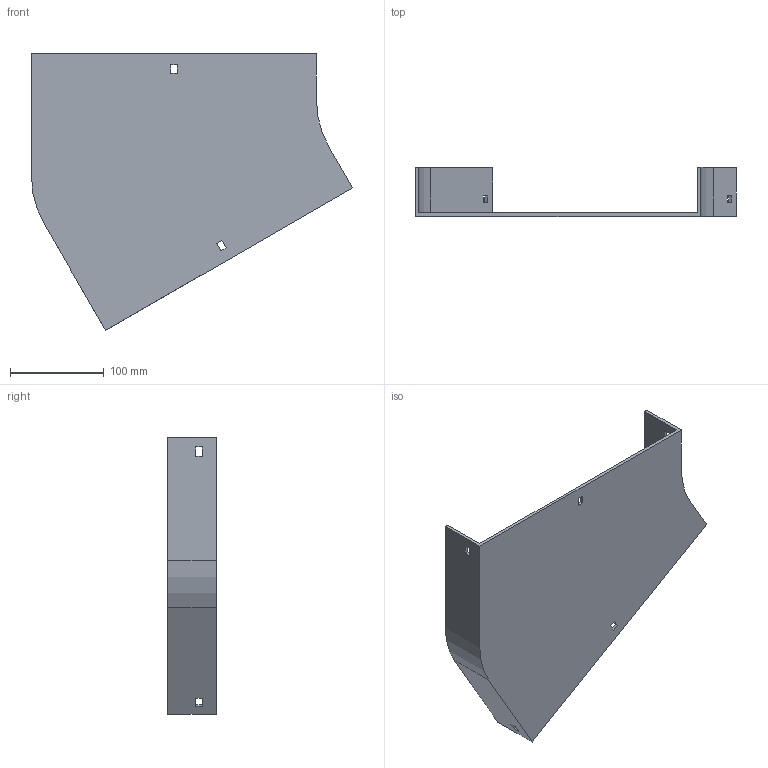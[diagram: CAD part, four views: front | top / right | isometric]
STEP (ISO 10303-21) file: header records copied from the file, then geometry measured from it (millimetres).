
FILE_DESCRIPTION (( 'STEP AP214' ), '1' );
FILE_NAME ('12B1B300.step', '2025-02-21T09:34:33', ( '' ), ( '' ), 'SwSTEP 2.0', 'SolidWorks 2023', '' );
FILE_SCHEMA (( 'AUTOMOTIVE_DESIGN' ));
Length unit declared in the file: millimetre
Products named in the file (1): 12B1B300
Bounding box: 342.4 x 52 x 295.3 mm (x, y, z)
Volume: 328080.5 mm3; surface area: 192611.3 mm2
Topology: 1 solids, 1 shells, 42 faces, 120 edges, 80 vertices
Faces by surface type: plane 38, cylinder 4
Entity records: 1399 total; most frequent: CARTESIAN_POINT 243, ORIENTED_EDGE 240, DIRECTION 214, EDGE_CURVE 120, VECTOR 112, LINE 112, VERTEX_POINT 80, EDGE_LOOP 54
